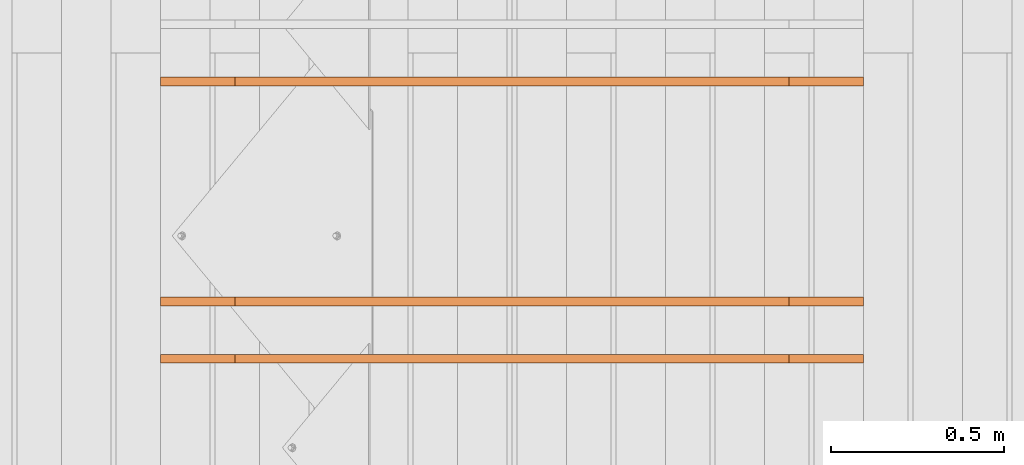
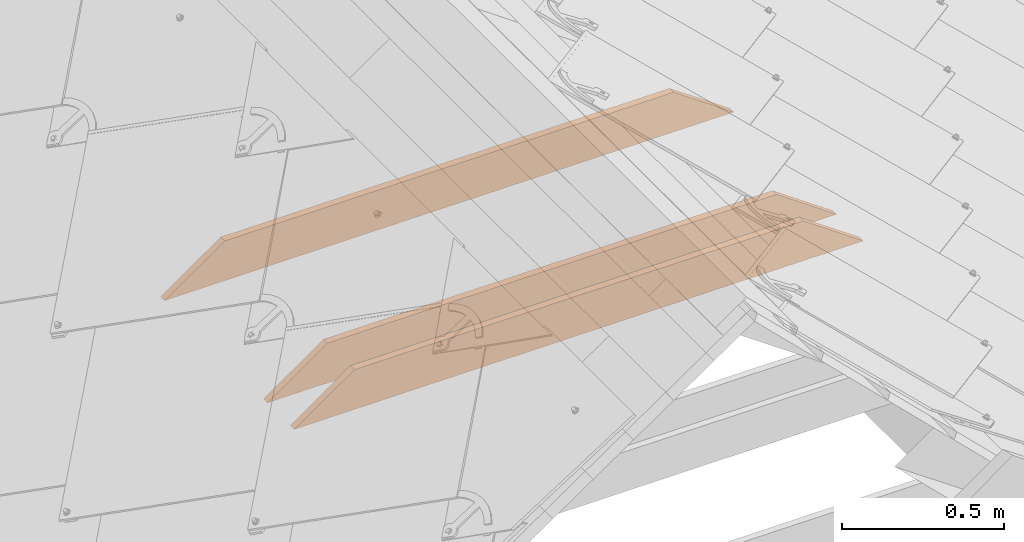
# One storey, part 32 of 133: 3 proxies, 1 element without a shape of its own.
"""IFC2X3 building model written with IfcOpenShell, lengths in millimetres."""

import ifcopenshell
import ifcopenshell.guid

model = None  # the IFC model being written
_history = None  # IfcOwnerHistory: only IFC2X3 demands one
_inside = {}  # id of a spatial element -> (the spatial element, [elements in it])
_under = {}  # id of a project, library or spatial element -> (it, [spatial elements below it])
_declared = {}  # id of a project -> (the project, [libraries it declares])
_typed = {}  # id of a type object -> (the type object, [elements of that type])
_made_of = {}  # id of a material, layer set ... -> (it, [elements and type objects made of it])


def new_model(schema):
    """Start an empty IFC model of exactly this schema.

    Asked for "IFC4X3", IfcOpenShell would pick the latest addendum, in which some entities
    have other attributes; the version numbers below select the first issue.
    IFC2X3 requires an IfcOwnerHistory on every rooted entity: one is made here for all.
    """
    global model, _history
    if schema == "IFC4X3":
        model = ifcopenshell.file(schema_version=(4, 3, 0, 0))
    else:
        model = ifcopenshell.file(schema=schema)
    _inside.clear()
    _under.clear()
    _declared.clear()
    _typed.clear()
    _made_of.clear()
    _history = None
    if model.schema == "IFC2X3":
        org = make("IfcOrganization", Name="unknown")
        user = make(
            "IfcPersonAndOrganization",
            ThePerson=make("IfcPerson", FamilyName="unknown"),
            TheOrganization=org,
        )
        app = make(
            "IfcApplication",
            ApplicationDeveloper=org,
            Version="unknown",
            ApplicationFullName="unknown",
            ApplicationIdentifier="unknown",
        )
        _history = make(
            "IfcOwnerHistory",
            OwningUser=user,
            OwningApplication=app,
            ChangeAction="ADDED",
            CreationDate=0,
        )
    return model


def make(cls, **values):
    """One entity of the class cls with the attributes given. An attribute that is None is left unset."""
    return model.create_entity(
        cls, **{name: value for name, value in values.items() if value is not None}
    )


def entity(cls, *values):
    """Any entity or typed value of the class cls, its attributes in the order of the schema. None: left unset."""
    e = model.create_entity(cls)
    for i, value in enumerate(values):
        if value is not None:
            e[i] = value
    return e


def rooted(cls, **values):
    """An entity with a GlobalId (a new one), such as an element, a storey or a relation."""
    return make(cls, GlobalId=ifcopenshell.guid.new(), OwnerHistory=_history, **values)


def si_unit(unit_type, name, prefix=None):
    """IfcSIUnit, for example si_unit("LENGTHUNIT", "METRE", prefix="MILLI")."""
    return make("IfcSIUnit", UnitType=unit_type, Prefix=prefix, Name=name)


def converted_unit(unit_type, name, factor, base, dimensions=None, offset=None):
    """IfcConversionBasedUnit, such as the inch: factor (a typed value) times the base unit."""
    return make(
        "IfcConversionBasedUnit"
        if offset is None
        else "IfcConversionBasedUnitWithOffset",
        ConversionOffset=offset,
        Dimensions=None
        if dimensions is None
        else entity("IfcDimensionalExponents", *dimensions),
        UnitType=unit_type,
        Name=name,
        ConversionFactor=make(
            "IfcMeasureWithUnit", ValueComponent=factor, UnitComponent=base
        ),
    )


def derived_unit(unit_type, elements):
    """IfcDerivedUnit: a product of units, each with its exponent."""
    return make(
        "IfcDerivedUnit",
        Elements=[
            make("IfcDerivedUnitElement", Unit=unit, Exponent=power)
            for unit, power in elements
        ],
        UnitType=unit_type,
    )


def assignment(units):
    """IfcUnitAssignment: the units of a project."""
    return None if units is None else make("IfcUnitAssignment", Units=units)


def point(xyz):
    """IfcCartesianPoint."""
    return None if xyz is None else make("IfcCartesianPoint", Coordinates=xyz)


def direction(xyz):
    """IfcDirection."""
    return None if xyz is None else make("IfcDirection", DirectionRatios=xyz)


def frame(location, z_axis=None, x_axis=None):
    """IfcAxis2Placement3D, a coordinate frame: its origin and axes. An axis left out is left unset."""
    return make(
        "IfcAxis2Placement3D",
        Location=point(location),
        Axis=direction(z_axis),
        RefDirection=direction(x_axis),
    )


def origin():
    """The frame at (0, 0, 0) with its axes left unset."""
    return frame((0.0, 0.0, 0.0))


def place(relative_to, where):
    """IfcLocalPlacement: puts the frame where relative to a parent placement (None: the world)."""
    return make(
        "IfcLocalPlacement", PlacementRelTo=relative_to, RelativePlacement=where
    )


def context(
    kind, dimensions, precision=None, world=None, true_north=None, identifier=None
):
    """IfcGeometricRepresentationContext, for example the 3D "Model" context."""
    return make(
        "IfcGeometricRepresentationContext",
        ContextIdentifier=identifier,
        ContextType=kind,
        CoordinateSpaceDimension=dimensions,
        Precision=precision,
        WorldCoordinateSystem=world,
        TrueNorth=true_north,
    )


def subcontext(parent, identifier, kind, view, scale=None):
    """IfcGeometricRepresentationSubContext, for example "Body" below "Model"."""
    return make(
        "IfcGeometricRepresentationSubContext",
        ContextIdentifier=identifier,
        ContextType=kind,
        ParentContext=parent,
        TargetScale=scale,
        TargetView=view,
    )


def project(units=None, contexts=None):
    """IfcProject with its units and contexts."""
    return rooted(
        "IfcProject",
        Name="project",
        RepresentationContexts=contexts,
        UnitsInContext=assignment(units),
    )


def spatial(cls, under=None, at=None, **own):
    """A site, building, storey or space (cls), placed at a placement, below another one or the project."""
    s = rooted(cls, ObjectPlacement=at, **own)
    if under is not None:
        _under.setdefault(under.id(), (under, []))[1].append(s)
    return s


def polyline(points):
    """IfcPolyline through the points."""
    return make("IfcPolyline", Points=[point(p) for p in points])


def outline(outer, holes=None, kind="AREA"):
    """IfcArbitraryClosedProfileDef: a profile drawn as a closed curve; with holes, ...WithVoids."""
    if holes is None:
        return make("IfcArbitraryClosedProfileDef", ProfileType=kind, OuterCurve=outer)
    return make(
        "IfcArbitraryProfileDefWithVoids",
        ProfileType=kind,
        OuterCurve=outer,
        InnerCurves=holes,
    )


def extrude(swept, where, along, depth):
    """IfcExtrudedAreaSolid: the profile swept, set in the frame where, extruded along a direction by depth."""
    return make(
        "IfcExtrudedAreaSolid",
        SweptArea=swept,
        Position=where,
        ExtrudedDirection=direction(along),
        Depth=depth,
    )


def shape(context_of_items, identifier, shape_type, items):
    """IfcShapeRepresentation: the items that make up one representation, for example the "Body"."""
    return make(
        "IfcShapeRepresentation",
        ContextOfItems=context_of_items,
        RepresentationIdentifier=identifier,
        RepresentationType=shape_type,
        Items=items,
    )


def source(mapping_origin, context_of_items, identifier, shape_type, items):
    """IfcRepresentationMap: a shape defined once, which mapped items show again and again."""
    return make(
        "IfcRepresentationMap",
        MappingOrigin=mapping_origin,
        MappedRepresentation=shape(context_of_items, identifier, shape_type, items),
    )


def transform(
    local_origin,
    x_axis=None,
    y_axis=None,
    z_axis=None,
    scale=None,
    scale2=None,
    scale3=None,
    uniform=True,
):
    """IfcCartesianTransformationOperator3D, or its non-uniform kind. x_axis, y_axis, z_axis: its Axis1, 2, 3."""
    if uniform:
        return make(
            "IfcCartesianTransformationOperator3D",
            Axis1=direction(x_axis),
            Axis2=direction(y_axis),
            LocalOrigin=point(local_origin),
            Scale=scale,
            Axis3=direction(z_axis),
        )
    return make(
        "IfcCartesianTransformationOperator3DnonUniform",
        Axis1=direction(x_axis),
        Axis2=direction(y_axis),
        LocalOrigin=point(local_origin),
        Scale=scale,
        Axis3=direction(z_axis),
        Scale2=scale2,
        Scale3=scale3,
    )


def mapped(mapping_source, mapping_target):
    """IfcMappedItem: shows the shape of a source again, moved by a transform."""
    return make(
        "IfcMappedItem", MappingSource=mapping_source, MappingTarget=mapping_target
    )


def material(Name=None, Category=None):
    """IfcMaterial."""
    return make("IfcMaterial", Name=Name, Category=Category)


def made_of(thing, what):
    """Note that an element or type object is made of a material, layer set ...; save() writes the relation."""
    if what is not None:
        _made_of.setdefault(what.id(), (what, []))[1].append(thing)
    return thing


def type_object(cls, material=None, **own):
    """A type object (cls), such as IfcWallType, which elements share."""
    return made_of(rooted(cls, **own), material)


def type_shapes(of_type, sources):
    """Give a type object the sources (RepresentationMaps) that its elements show as mapped items."""
    of_type.RepresentationMaps = sources


def element(
    cls,
    number,
    at=None,
    inside=None,
    cuts=None,
    type_object=None,
    material=None,
    context=None,
    identifier="Body",
    shape_type=None,
    held_by="IfcProductDefinitionShape",
    body=None,
    shapes=None,
    **own,
):
    """One element of the class cls, such as IfcWall. Its Tag is "e" and its number.

    at: its placement. inside: the storey or other place that contains it. cuts: it is an
    opening in that element (IfcRelVoidsElement). A single representation is given by context,
    identifier, shape_type and body (its items); several are given by shapes. held_by: the class
    of the entity that holds the representations. save() writes the other relations.
    """
    e = rooted(cls, Tag="e%d" % number, ObjectPlacement=at, **own)
    if body is not None:
        shapes = [shape(context, identifier, shape_type, body)]
    if shapes is not None:
        e.Representation = make(held_by, Representations=shapes)
    if inside is not None:
        _inside.setdefault(inside.id(), (inside, []))[1].append(e)
    if cuts is not None:
        rooted(
            "IfcRelVoidsElement", RelatingBuildingElement=cuts, RelatedOpeningElement=e
        )
    if type_object is not None:
        _typed.setdefault(type_object.id(), (type_object, []))[1].append(e)
    return made_of(e, material)


def aggregate(whole, parts):
    """IfcRelAggregates: a whole, such as a stair, and the parts it consists of."""
    return rooted("IfcRelAggregates", RelatingObject=whole, RelatedObjects=parts)


def save(model, path):
    """Write the relations noted so far, then the file.

    IfcRelAggregates (storeys below a building ...), IfcRelContainedInSpatialStructure (elements
    in a storey), IfcRelDefinesByType, IfcRelAssociatesMaterial and IfcRelDeclares: one each for
    every whole, place, type object, material and project.
    """
    for whole, parts in _under.values():
        aggregate(whole, parts)
    for where, things in _inside.values():
        rooted(
            "IfcRelContainedInSpatialStructure",
            RelatedElements=things,
            RelatingStructure=where,
        )
    for kind, things in _typed.values():
        rooted("IfcRelDefinesByType", RelatedObjects=things, RelatingType=kind)
    for what, things in _made_of.values():
        rooted("IfcRelAssociatesMaterial", RelatedObjects=things, RelatingMaterial=what)
    for by, libraries in _declared.values():
        rooted("IfcRelDeclares", RelatingContext=by, RelatedDefinitions=libraries)
    model.write(path)


model = new_model("IFC2X3")

# Units and contexts
model_context = context("Model", 3, precision=0.01, world=origin(), true_north=direction((6.12303176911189e-17, 1.0)))
body_context = subcontext(model_context, "Body", "Model", "MODEL_VIEW")
ifc_project = project(units=[si_unit("LENGTHUNIT", "METRE", prefix="MILLI"), si_unit("AREAUNIT", "SQUARE_METRE"), si_unit("VOLUMEUNIT", "CUBIC_METRE"), converted_unit("PLANEANGLEUNIT", "DEGREE", entity("IfcRatioMeasure", 0.0174532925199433), si_unit("PLANEANGLEUNIT", "RADIAN"), dimensions=[0, 0, 0, 0, 0, 0, 0]), si_unit("MASSUNIT", "GRAM", prefix="KILO"), derived_unit("MASSDENSITYUNIT", [(si_unit("MASSUNIT", "GRAM", prefix="KILO"), 1), (si_unit("LENGTHUNIT", "METRE"), -3)]), si_unit("TIMEUNIT", "SECOND"), si_unit("FREQUENCYUNIT", "HERTZ"), si_unit("THERMODYNAMICTEMPERATUREUNIT", "DEGREE_CELSIUS"), derived_unit("THERMALTRANSMITTANCEUNIT", [(si_unit("MASSUNIT", "GRAM", prefix="KILO"), 1), (si_unit("THERMODYNAMICTEMPERATUREUNIT", "KELVIN"), -1), (si_unit("TIMEUNIT", "SECOND"), -3)]), derived_unit("VOLUMETRICFLOWRATEUNIT", [(si_unit("LENGTHUNIT", "METRE"), 3), (si_unit("TIMEUNIT", "SECOND"), -1)]), si_unit("ELECTRICCURRENTUNIT", "AMPERE"), si_unit("ELECTRICVOLTAGEUNIT", "VOLT"), si_unit("POWERUNIT", "WATT"), si_unit("FORCEUNIT", "NEWTON", prefix="KILO"), si_unit("ILLUMINANCEUNIT", "LUX"), si_unit("LUMINOUSFLUXUNIT", "LUMEN"), si_unit("LUMINOUSINTENSITYUNIT", "CANDELA"), derived_unit("USERDEFINED", [(si_unit("MASSUNIT", "GRAM", prefix="KILO"), -1), (si_unit("LENGTHUNIT", "METRE"), -2), (si_unit("TIMEUNIT", "SECOND"), 3), (si_unit("LUMINOUSFLUXUNIT", "LUMEN"), 1)]), derived_unit("LINEARVELOCITYUNIT", [(si_unit("LENGTHUNIT", "METRE"), 1), (si_unit("TIMEUNIT", "SECOND"), -1)]), si_unit("PRESSUREUNIT", "PASCAL"), derived_unit("USERDEFINED", [(si_unit("LENGTHUNIT", "METRE"), -2), (si_unit("MASSUNIT", "GRAM", prefix="KILO"), 1), (si_unit("TIMEUNIT", "SECOND"), -2)])], contexts=[model_context])

# Site, building, storey
site_placement = place(None, origin())
site = spatial("IfcSite", under=ifc_project, at=site_placement, Name="Default", CompositionType="ELEMENT")
building_placement = place(site_placement, origin())
building = spatial("IfcBuilding", under=site, at=building_placement, CompositionType="ELEMENT")
storey_placement = place(building_placement, origin())
storey = spatial("IfcBuildingStorey", under=building, at=storey_placement, Name="Level 1", CompositionType="ELEMENT", Elevation=0.0)

# Assembly, proxies
assembly_placement = place(storey_placement, origin())
assembly = element("IfcElementAssembly", 1, at=assembly_placement, inside=storey, Name="Structural Framing Assembly:Roof Construction Assembly", ObjectType="Structural Framing Assembly:Roof Construction Assembly", AssemblyPlace="NOTDEFINED", PredefinedType="USERDEFINED")
ifc_material = material(Name="Wood - Generic - Wood For Showcase")
building_element_proxy_type_1 = type_object("IfcBuildingElementProxyType", Name="Structural Framing 296", PredefinedType="NOTDEFINED", material=ifc_material)
shared_shape_1 = source(origin(), body_context, "Body", "SweptSolid", [
    extrude(outline(polyline([(-1014.04699829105, -75.0), (1014.04699829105, -75.0), (799.824797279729, 75.0), (-799.824797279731, 75.0), (-1014.04699829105, -75.0)])), frame((1206.77890726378, 3760.55080214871, 2164.95664769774), z_axis=(0.0, 1.0, 0.0), x_axis=(-1.0, 0.0, 0.0)), (0.0, 0.0, 1.0), 24.9999999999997),
])
type_shapes(building_element_proxy_type_1, [shared_shape_1])
proxy_1_placement = place(assembly_placement, frame((0.0, -8000.0, 0.0)))
proxy_1 = element("IfcBuildingElementProxy", 2, at=proxy_1_placement, type_object=building_element_proxy_type_1, material=ifc_material, Name="Structural Framing 315:Structural Framing 296", ObjectType="Structural Framing 315:Structural Framing 296", context=body_context, shape_type="MappedRepresentation", body=[
    mapped(shared_shape_1, transform((0.0, 0.0, 0.0), scale=1.0)),
])
building_element_proxy_type_2 = type_object("IfcBuildingElementProxyType", Name="Structural Framing 296", PredefinedType="NOTDEFINED", material=ifc_material)
shared_shape_2 = source(origin(), body_context, "Body", "SweptSolid", [
    extrude(outline(polyline([(-1014.04699829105, -75.0), (1014.04699829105, -75.0), (799.824797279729, 75.0), (-799.824797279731, 75.0), (-1014.04699829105, -75.0)])), frame((1206.77890726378, 3760.55080214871, 2164.95664769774), z_axis=(0.0, 1.0, 0.0), x_axis=(-1.0, 0.0, 0.0)), (0.0, 0.0, 1.0), 24.9999999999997),
])
type_shapes(building_element_proxy_type_2, [shared_shape_2])
proxy_2_placement = place(assembly_placement, frame((0.0, -8800.0, 0.0)))
proxy_2 = element("IfcBuildingElementProxy", 3, at=proxy_2_placement, type_object=building_element_proxy_type_2, material=ifc_material, Name="Structural Framing 317:Structural Framing 296", ObjectType="Structural Framing 317:Structural Framing 296", context=body_context, shape_type="MappedRepresentation", body=[
    mapped(shared_shape_2, transform((0.0, 0.0, 0.0), scale=1.0)),
])
building_element_proxy_type_3 = type_object("IfcBuildingElementProxyType", Name="Structural Framing 296", PredefinedType="NOTDEFINED", material=ifc_material)
shared_shape_3 = source(origin(), body_context, "Body", "SweptSolid", [
    extrude(outline(polyline([(-1014.04699829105, -75.0), (1014.04699829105, -75.0), (799.824797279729, 75.0), (-799.824797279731, 75.0), (-1014.04699829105, -75.0)])), frame((1206.77890726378, 2325.55080214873, 2164.95664769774), z_axis=(0.0, 1.0, 0.0), x_axis=(-1.0, 0.0, 0.0)), (0.0, 0.0, 1.0), 25.0),
])
type_shapes(building_element_proxy_type_3, [shared_shape_3])
proxy_3_placement = place(assembly_placement, frame((0.0, -7200.0, 0.0)))
proxy_3 = element("IfcBuildingElementProxy", 4, at=proxy_3_placement, type_object=building_element_proxy_type_3, material=ifc_material, Name="Structural Framing 318:Structural Framing 296", ObjectType="Structural Framing 318:Structural Framing 296", context=body_context, shape_type="MappedRepresentation", body=[
    mapped(shared_shape_3, transform((0.0, 0.0, 0.0), scale=1.0)),
])
aggregate(assembly, [proxy_1, proxy_2, proxy_3])

save(model, "model.ifc")
